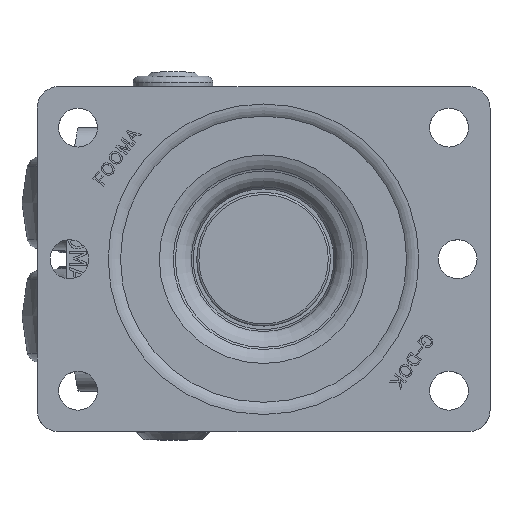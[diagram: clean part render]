
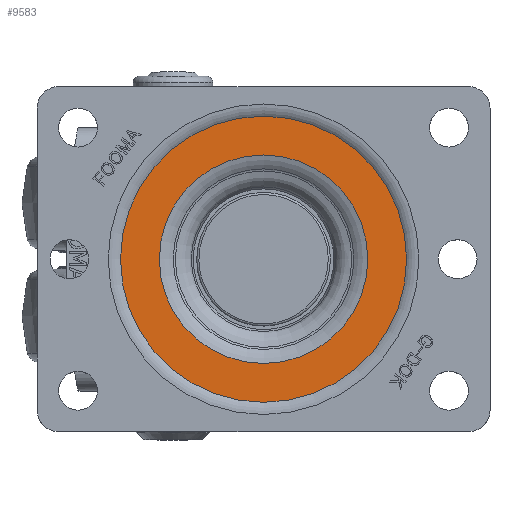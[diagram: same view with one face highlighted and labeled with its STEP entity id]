
A CAD part, top view. The second image highlights one B-rep face of the part: STEP entity #9583.
In plain terms, the highlighted planar face has unit normal (0, 0, 1).
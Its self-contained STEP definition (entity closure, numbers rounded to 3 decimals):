
#736=FACE_BOUND('',#2066,.T.);
#1107=CIRCLE('',#10401,24.168);
#1108=CIRCLE('',#10402,24.168);
#1112=CIRCLE('',#10407,33.172);
#1497=FACE_OUTER_BOUND('',#2065,.T.);
#2065=EDGE_LOOP('',(#7484));
#2066=EDGE_LOOP('',(#7485,#7486));
#4062=VERTEX_POINT('',#17399);
#4063=VERTEX_POINT('',#17400);
#4066=VERTEX_POINT('',#17409);
#5261=EDGE_CURVE('',#4062,#4063,#1107,.T.);
#5262=EDGE_CURVE('',#4063,#4062,#1108,.T.);
#5266=EDGE_CURVE('',#4066,#4066,#1112,.T.);
#7484=ORIENTED_EDGE('',*,*,#5266,.T.);
#7485=ORIENTED_EDGE('',*,*,#5261,.T.);
#7486=ORIENTED_EDGE('',*,*,#5262,.T.);
#8646=PLANE('',#10406);
#9583=ADVANCED_FACE('',(#1497,#736),#8646,.F.);
#10401=AXIS2_PLACEMENT_3D('',#17401,#12092,#12093);
#10402=AXIS2_PLACEMENT_3D('',#17402,#12094,#12095);
#10406=AXIS2_PLACEMENT_3D('',#17408,#12102,#12103);
#10407=AXIS2_PLACEMENT_3D('',#17410,#12104,#12105);
#12092=DIRECTION('center_axis',(0.,0.,
-1.));
#12093=DIRECTION('ref_axis',(1.,0.,0.));
#12094=DIRECTION('center_axis',(0.,0.,
-1.));
#12095=DIRECTION('ref_axis',(1.,0.,0.));
#12102=DIRECTION('center_axis',(0.,0.,
-1.));
#12103=DIRECTION('ref_axis',(-1.,0.,0.));
#12104=DIRECTION('center_axis',(0.,0.,
1.));
#12105=DIRECTION('ref_axis',(-1.,0.,0.));
#17399=CARTESIAN_POINT('',(-24.168,0.,3.445));
#17400=CARTESIAN_POINT('',(24.168,0.,3.445));
#17401=CARTESIAN_POINT('Origin',(0.,0.,
3.445));
#17402=CARTESIAN_POINT('Origin',(0.,0.,
3.445));
#17408=CARTESIAN_POINT('Origin',(-24.168,0.,
3.445));
#17409=CARTESIAN_POINT('',(33.172,0.,3.445));
#17410=CARTESIAN_POINT('Origin',(0.,0.,
3.445));
